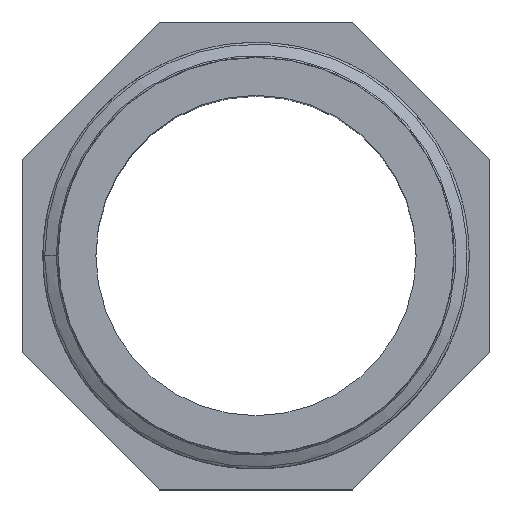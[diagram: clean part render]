
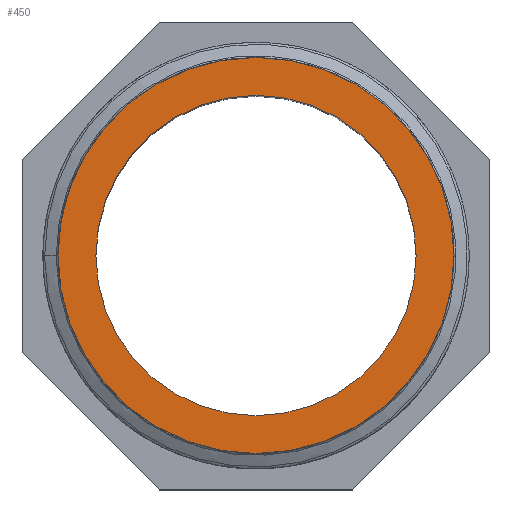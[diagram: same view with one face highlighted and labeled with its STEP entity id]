
A CAD part, top view. The second image highlights one B-rep face of the part: STEP entity #450.
In plain terms, the highlighted planar face has unit normal (0, 0, 1).
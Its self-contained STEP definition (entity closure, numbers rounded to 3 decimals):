
#25=CIRCLE('',#474,19.476);
#26=CIRCLE('',#476,15.75);
#42=FACE_BOUND('',#123,.T.);
#91=FACE_OUTER_BOUND('',#122,.T.);
#122=EDGE_LOOP('',(#408));
#123=EDGE_LOOP('',(#409));
#215=VERTEX_POINT('',#3165);
#222=VERTEX_POINT('',#7862);
#283=EDGE_CURVE('',#215,#215,#25,.T.);
#284=EDGE_CURVE('',#222,#222,#26,.T.);
#408=ORIENTED_EDGE('',*,*,#283,.T.);
#409=ORIENTED_EDGE('',*,*,#284,.T.);
#423=PLANE('',#479);
#450=ADVANCED_FACE('',(#91,#42),#423,.T.);
#474=AXIS2_PLACEMENT_3D('',#7860,#554,#555);
#476=AXIS2_PLACEMENT_3D('',#7863,#558,#559);
#479=AXIS2_PLACEMENT_3D('',#7867,#564,#565);
#554=DIRECTION('center_axis',(0.,0.,1.));
#555=DIRECTION('ref_axis',(-1.,0.,0.));
#558=DIRECTION('center_axis',(0.,0.,-1.));
#559=DIRECTION('ref_axis',(-1.,0.,0.));
#564=DIRECTION('center_axis',(0.,0.,1.));
#565=DIRECTION('ref_axis',(1.,0.,0.));
#3165=CARTESIAN_POINT('',(-19.476,0.,29.));
#7860=CARTESIAN_POINT('Origin',(0.,0.,29.));
#7862=CARTESIAN_POINT('',(15.75,0.,29.));
#7863=CARTESIAN_POINT('Origin',(0.,0.,29.));
#7867=CARTESIAN_POINT('Origin',(0.,0.,
29.));
